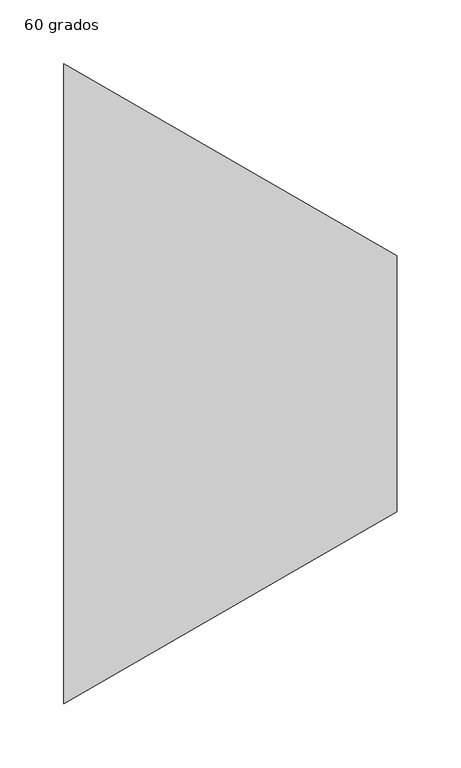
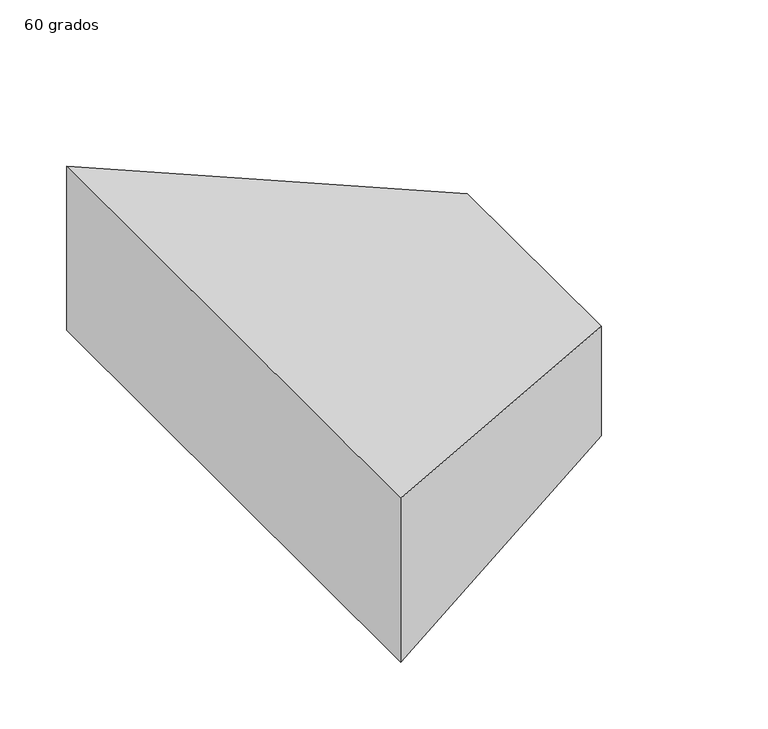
"""IFC4 building model written with IfcOpenShell, lengths in millimetres: duct fitting geometry, M_Transición rectangular - Ángulo : 60 grados."""

from ifc_helpers import new_model, si_unit, origin, place, context, project, spatial, faceted_brep, source, transform, mapped, element, save


def duct_fitting_60_grados_13bc32ce(model_context):
    return source(origin(), model_context, "Body", "Brep", [
        faceted_brep([(259.8076211, -100.0, 50.0), (259.8076211, -100.0, -50.0), (259.8076211, 100.0, -50.0), (259.8076211, 100.0, 50.0), (0.0, -250.0, 75.0), (0.0, 250.0, 75.0), (0.0, 250.0, -75.0), (0.0, -250.0, -75.0)], [[[0, 1, 2, 3]], [[4, 5, 6, 7]], [[4, 7, 1, 0]], [[7, 6, 2, 1]], [[6, 5, 3, 2]], [[5, 4, 0, 3]]]),
    ])


if __name__ == "__main__":
    model = new_model("IFC4")
    model_context = context("Model", 3, world=origin())
    ifc_project = project(units=[si_unit("LENGTHUNIT", "METRE", prefix="MILLI")], contexts=[model_context])
    site = spatial("IfcSite", under=ifc_project)
    building = spatial("IfcBuilding", under=site)
    placement = place(None, origin())
    duct_fitting_60_grados_shape = duct_fitting_60_grados_13bc32ce(model_context)
    element("IfcDuctFitting", 1, ObjectType="M_Transición rectangular - Ángulo : 60 grados", at=placement, inside=building, context=model_context, shape_type="MappedRepresentation", body=[
        mapped(duct_fitting_60_grados_shape, transform((0.0, 0.0, 0.0), x_axis=(1.0, 0.0, 0.0), y_axis=(0.0, 1.0, 0.0), z_axis=(0.0, 0.0, 1.0))),
    ])
    save(model, "model.ifc")
